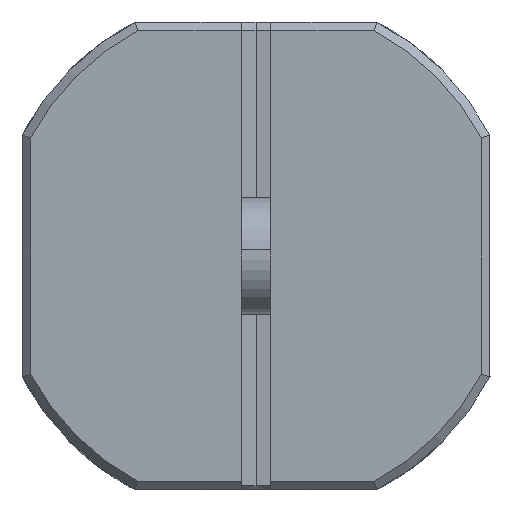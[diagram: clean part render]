
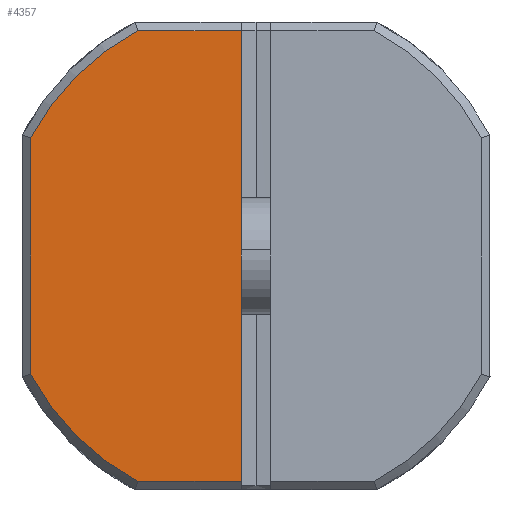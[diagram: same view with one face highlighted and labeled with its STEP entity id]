
A CAD part, left-side view. The second image highlights one B-rep face of the part: STEP entity #4357.
In plain terms, the highlighted planar face has unit normal (-1, 0, 0).
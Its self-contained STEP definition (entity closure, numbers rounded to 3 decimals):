
#89 = EDGE_CURVE ( 'NONE', #15099, #345, #13164, .T. ) ;
#345 = VERTEX_POINT ( 'NONE', #12756 ) ;
#502 = CARTESIAN_POINT ( 'NONE',  ( -18.24, 33.317, -4.05 ) ) ;
#1066 = ORIENTED_EDGE ( 'NONE', *, *, #13814, .F. ) ;
#1157 = VECTOR ( 'NONE', #10166, 1000. ) ;
#1459 = LINE ( 'NONE', #14843, #7117 ) ;
#1507 = EDGE_CURVE ( 'NONE', #15486, #3851, #13760, .T. ) ;
#1546 = DIRECTION ( 'NONE',  ( 0., -1., 0. ) ) ;
#1574 = CARTESIAN_POINT ( 'NONE',  ( -18.24, 29.717, -7.7 ) ) ;
#2111 = FACE_OUTER_BOUND ( 'NONE', #8124, .T. ) ;
#2340 = CARTESIAN_POINT ( 'NONE',  ( -18.24, 33.317, 0. ) ) ;
#2495 = DIRECTION ( 'NONE',  ( 0., 0., 1. ) ) ;
#2557 = DIRECTION ( 'NONE',  ( 0., 0., -1. ) ) ;
#2693 = AXIS2_PLACEMENT_3D ( 'NONE', #4039, #6244, #9873 ) ;
#3543 = VECTOR ( 'NONE', #7443, 1000. ) ;
#3573 = ORIENTED_EDGE ( 'NONE', *, *, #1507, .F. ) ;
#3822 = DIRECTION ( 'NONE',  ( -1., 0., 0. ) ) ;
#3851 = VERTEX_POINT ( 'NONE', #15121 ) ;
#3938 = VECTOR ( 'NONE', #2495, 1000. ) ;
#4039 = CARTESIAN_POINT ( 'NONE',  ( -18.24, 26.117, 7.7 ) ) ;
#4357 = ADVANCED_FACE ( 'NONE', ( #2111 ), #13488, .F. ) ;
#6244 = DIRECTION ( 'NONE',  ( 1., 0., 0. ) ) ;
#6398 = CARTESIAN_POINT ( 'NONE',  ( -18.24, 26.117, 0. ) ) ;
#7117 = VECTOR ( 'NONE', #1546, 1000. ) ;
#7395 = LINE ( 'NONE', #1574, #1157 ) ;
#7399 = CARTESIAN_POINT ( 'NONE',  ( -18.24, 25.617, 0. ) ) ;
#7443 = DIRECTION ( 'NONE',  ( 0., 0., -1. ) ) ;
#7852 = AXIS2_PLACEMENT_3D ( 'NONE', #14722, #8567, #2557 ) ;
#8124 = EDGE_LOOP ( 'NONE', ( #1066, #11868, #3573, #8771, #8643, #12782 ) ) ;
#8567 = DIRECTION ( 'NONE',  ( -1., 0., 0. ) ) ;
#8643 = ORIENTED_EDGE ( 'NONE', *, *, #10457, .F. ) ;
#8771 = ORIENTED_EDGE ( 'NONE', *, *, #13300, .T. ) ;
#9182 = CIRCLE ( 'NONE', #10570, 8.7 ) ;
#9873 = DIRECTION ( 'NONE',  ( 0., 0., -1. ) ) ;
#10166 = DIRECTION ( 'NONE',  ( 0., 1., 0. ) ) ;
#10307 = CARTESIAN_POINT ( 'NONE',  ( -18.24, 29.667, 7.7 ) ) ;
#10457 = EDGE_CURVE ( 'NONE', #345, #12927, #7395, .T. ) ;
#10469 = CARTESIAN_POINT ( 'NONE',  ( -18.24, 26.117, 7.7 ) ) ;
#10570 = AXIS2_PLACEMENT_3D ( 'NONE', #7399, #3822, #11097 ) ;
#11097 = DIRECTION ( 'NONE',  ( 0., 0., -1. ) ) ;
#11158 = CIRCLE ( 'NONE', #7852, 8.7 ) ;
#11868 = ORIENTED_EDGE ( 'NONE', *, *, #13918, .T. ) ;
#12756 = CARTESIAN_POINT ( 'NONE',  ( -18.24, 26.117, -7.7 ) ) ;
#12782 = ORIENTED_EDGE ( 'NONE', *, *, #89, .F. ) ;
#12927 = VERTEX_POINT ( 'NONE', #13068 ) ;
#13068 = CARTESIAN_POINT ( 'NONE',  ( -18.24, 29.667, -7.7 ) ) ;
#13164 = LINE ( 'NONE', #6398, #3543 ) ;
#13300 = EDGE_CURVE ( 'NONE', #15486, #12927, #11158, .T. ) ;
#13488 = PLANE ( 'NONE',  #2693 ) ;
#13584 = VERTEX_POINT ( 'NONE', #10307 ) ;
#13760 = LINE ( 'NONE', #2340, #3938 ) ;
#13814 = EDGE_CURVE ( 'NONE', #13584, #15099, #1459, .T. ) ;
#13918 = EDGE_CURVE ( 'NONE', #13584, #3851, #9182, .T. ) ;
#14722 = CARTESIAN_POINT ( 'NONE',  ( -18.24, 25.617, 0. ) ) ;
#14843 = CARTESIAN_POINT ( 'NONE',  ( -18.24, 29.717, 7.7 ) ) ;
#15099 = VERTEX_POINT ( 'NONE', #10469 ) ;
#15121 = CARTESIAN_POINT ( 'NONE',  ( -18.24, 33.317, 4.05 ) ) ;
#15486 = VERTEX_POINT ( 'NONE', #502 ) ;
